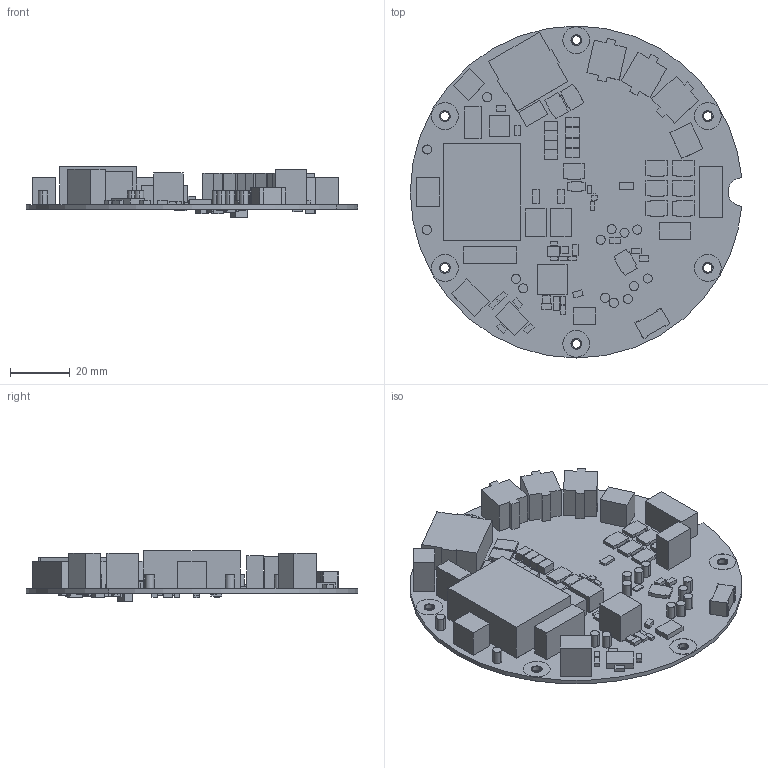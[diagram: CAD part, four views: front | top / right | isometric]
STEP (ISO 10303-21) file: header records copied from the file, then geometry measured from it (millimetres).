
FILE_DESCRIPTION(('STEP AP214'),'1');
FILE_NAME('LRAUVThrustermodel.stp','2021-04-20T17:35:55',(' '),(' '),'Spatial InterOp 3D',' ',' ');
FILE_SCHEMA(('AUTOMOTIVE_DESIGN { 1 0 10303 214 1 1 1 1 }'));
Length unit declared in the file: millimetre
Products named in the file (569): Pins; 1; 2; 2UPU; 3; 4; 5; 6; 7; 8; A; ADJ; AGND; B; BIAS; BRAKE; BST; BUS1; BUS2; C; C1+; C1-; C2+; C2-; COMP; CP1; CP2; CSN; CSP; D; DIR; E; EN; EP; E\N\; FAULT; FB; FG; FORCEON; F\O\R\C\E\O\F\F\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
Assembly tree (568 placements, depth 3):
  100221559ra_lrauv_thrustdrive.brd
    Pins
      1
      1
      1
      1
      1
      1
      1
      1
      1
      1
      1
      1
      1
      1
      1
      1
      1
      1
      1
      1
      1
      1
      1
      1
      1
      1
      1
      1
      1
      1
      1
      1
      1
      1
      1
      1
      1
      1
      1
      1
      1
      1
      1
      1
      1
      1
      1
      1
      1
      1
      1
      1
      1
      1
      1
      1
      1
      1
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Bounding box: 110.92 x 111.12 x 17.04 mm (x, y, z)
Volume: 43679 mm3; surface area: 41792.1 mm2
Topology: 614 solids, 614 shells, 4001 faces, 8319 edges, 5546 vertices
Faces by surface type: plane 3102, cylinder 899
Entity records: 123163 total; most frequent: DIRECTION 19263, CARTESIAN_POINT 18438, ORIENTED_EDGE 16638, EDGE_CURVE 8319, LINE 6521, VECTOR 6521, AXIS2_PLACEMENT_3D 6371, VERTEX_POINT 5546
